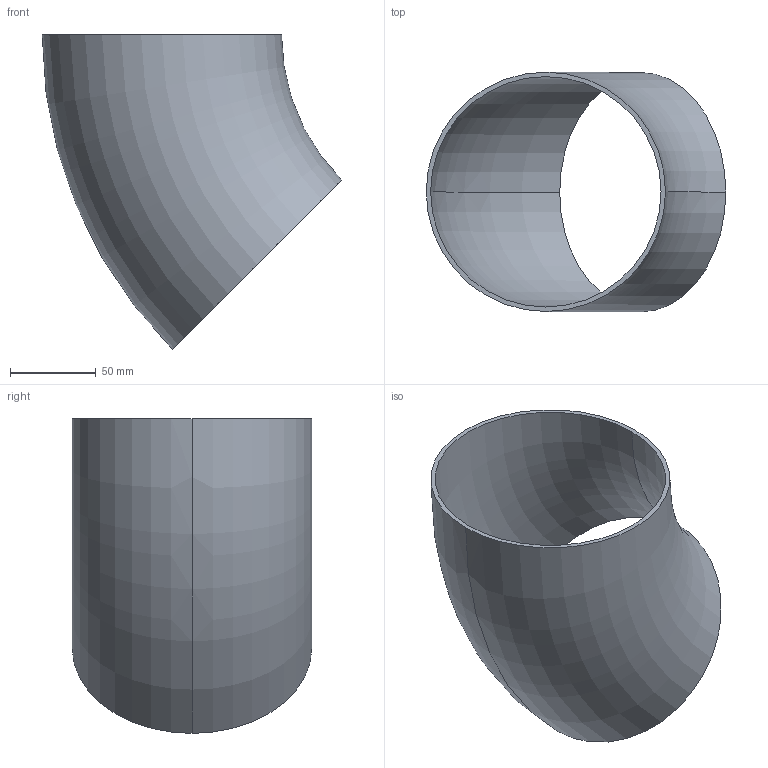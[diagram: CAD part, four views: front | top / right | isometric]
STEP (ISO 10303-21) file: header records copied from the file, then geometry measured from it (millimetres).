
FILE_DESCRIPTION (( 'STEP AP203' ), '1' );
FILE_NAME ('3D_R1650_139.7x2.6_17351660.STEP', '2024-08-03T09:12:12', ( '' ), ( '' ), 'SwSTEP 2.0', 'SolidWorks 2024', '' );
FILE_SCHEMA (( 'CONFIG_CONTROL_DESIGN' ));
Length unit declared in the file: millimetre
Products named in the file (1): 3D_R1650_139.7x2.6_17351660
Bounding box: 174.89 x 139.7 x 183.74 mm (x, y, z)
Volume: 167110.7 mm3; surface area: 130786.4 mm2
Topology: 1 solids, 1 shells, 6 faces, 12 edges, 8 vertices
Faces by surface type: torus 4, plane 2
Entity records: 249 total; most frequent: DIRECTION 38, CARTESIAN_POINT 27, ORIENTED_EDGE 24, AXIS2_PLACEMENT_3D 19, CIRCLE 12, EDGE_CURVE 12, EDGE_LOOP 8, VERTEX_POINT 8
